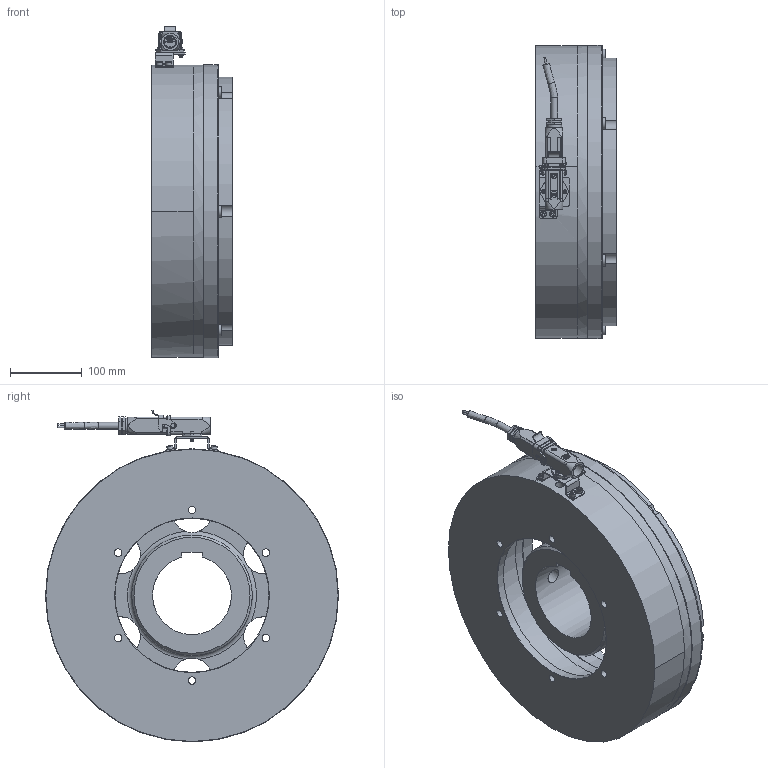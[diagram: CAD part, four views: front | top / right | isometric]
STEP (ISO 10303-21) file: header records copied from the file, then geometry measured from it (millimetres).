
FILE_DESCRIPTION(/* description */ (''),/* implementation_level */ '2;1');
FILE_NAME(/* name */ 'X:\INVENTOR\DISEGNI\08_Freni_Friz_Elettmag_Monodisco\08_28 EMFL_DF\EMFL_DF STEP\08_28_400_13 EMFL400_DF-C-MI_S@STEP.stp',/* time_stamp */ '2018-04-23T09:42:04+02:00',/* author */ ('stefano'),/* organization */ (''),/* preprocessor_version */ 'ST-DEVELOPER v17',/* originating_system */ 'Autodesk Inventor 2018',/* authorisation */ '');
FILE_SCHEMA (('AUTOMOTIVE_DESIGN { 1 0 10303 214 3 1 1 }'));
Products named in the file (1): 08_28_400_13 EMFL400_DF-C-MI - Spina_Substitute_1
Bounding box: 113 x 409 x 462.92 mm (x, y, z)
Volume: 9286127.3 mm3; surface area: 963288.2 mm2
Topology: 3 solids, 3 shells, 1528 faces, 4332 edges, 2880 vertices
Faces by surface type: plane 925, cylinder 485, cone 72, torus 22, bspline 21, sphere 3
Full cylindrical faces by diameter (mm): 0.753 x1, 0.986 x1, 1.05 x1, 2.5 x2, 3 x15, 3.2 x1, 3.25 x2, 3.59 x1, 4 x3, 4.675 x2, 4.8 x2, 5 x4, 5.5 x2, 6 x2, 6.2 x1, 7 x1, 8.2 x2, 8.5 x4, 9.5 x2, 10.106 x6, 10.5 x6, 12 x1, 13.5 x2, 16 x14, 17.8 x12, 18 x19, 18.6 x1, 20.6 x1, 20.752 x2, 55 x6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
Entity records: 53042 total; most frequent: CARTESIAN_POINT 10398, DIRECTION 8704, ORIENTED_EDGE 8640, EDGE_CURVE 4320, AXIS2_PLACEMENT_3D 3092, VERTEX_POINT 2880, LINE 2520, VECTOR 2520
